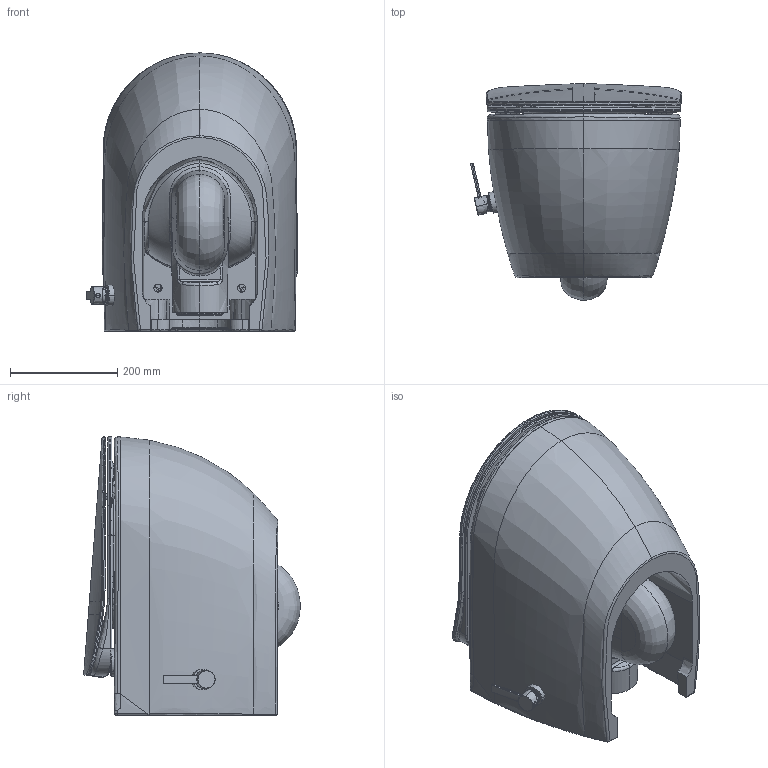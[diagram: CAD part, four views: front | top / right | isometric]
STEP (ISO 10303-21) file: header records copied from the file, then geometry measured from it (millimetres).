
FILE_DESCRIPTION (( 'STEP AP203' ), '1' );
FILE_NAME ('fe322-34cb00e-0000-kc0903-02-0000e.STEP', '2023-06-02T13:50:54', ( '' ), ( '' ), 'SwSTEP 2.0', 'SolidWorks 2023', '' );
FILE_SCHEMA (( 'CONFIG_CONTROL_DESIGN' ));
Products named in the file (1): fe322-34cb00e-0000-kc0903-02-0000e
Bounding box: 394.54 x 404.62 x 519.9 mm (x, y, z)
Surface area: 2051765.1 mm2 (no closed solid volume)
Topology: 0 solids, 36 shells, 2251 faces, 5774 edges, 3615 vertices
Faces by surface type: bspline 1124, cylinder 505, plane 389, torus 136, cone 50, sphere 47
Entity records: 738319 total; most frequent: CARTESIAN_POINT 693168, ORIENTED_EDGE 11392, DIRECTION 6511, EDGE_CURVE 5701, VERTEX_POINT 3609, B_SPLINE_CURVE_WITH_KNOTS 2747, AXIS2_PLACEMENT_3D 2677, EDGE_LOOP 2390
